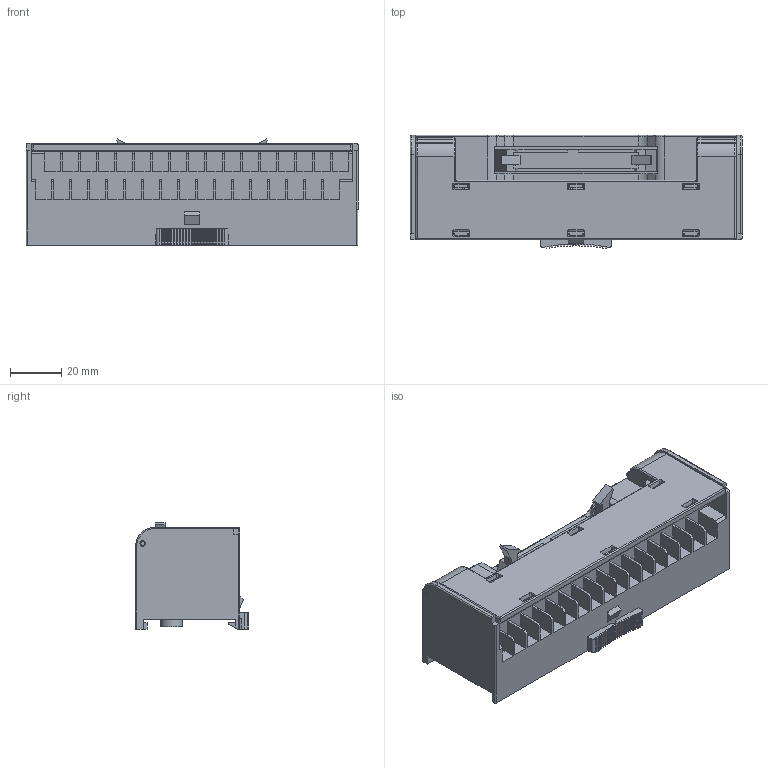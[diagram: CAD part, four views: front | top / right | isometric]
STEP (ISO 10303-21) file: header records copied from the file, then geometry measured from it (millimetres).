
FILE_DESCRIPTION(/* description */ (''),/* implementation_level */ '2;1');
FILE_NAME(/* name */ '',/* time_stamp */ '2016-06-22T10:30:53+09:00',/* author */ (''),/* organization */ (''),/* preprocessor_version */ 'ST-DEVELOPER v11',/* originating_system */ 'SIEMENS UGS NX 6.0',/* authorisation */ '');
FILE_SCHEMA (('CONFIG_CONTROL_DESIGN'));
Length unit declared in the file: millimetre
Products named in the file (1): ksle8AE55bn1
Bounding box: 129.02 x 43.96 x 41.29 mm (x, y, z)
Volume: 126968.1 mm3; surface area: 46236.2 mm2
Topology: 1 solids, 1 shells, 677 faces, 1923 edges, 1237 vertices
Faces by surface type: plane 459, cylinder 156, torus 38, bspline 16, sphere 8
Full cylindrical faces by diameter (mm): 0.3 x2, 2 x2, 2.2 x2, 2.7 x2, 4.5 x3, 6.4 x1, 8 x2, 8.5 x2
Entity records: 22368 total; most frequent: CARTESIAN_POINT 4630, ORIENTED_EDGE 3784, DIRECTION 3522, EDGE_CURVE 1892, LINE 1488, VECTOR 1488, VERTEX_POINT 1237, AXIS2_PLACEMENT_3D 1017
